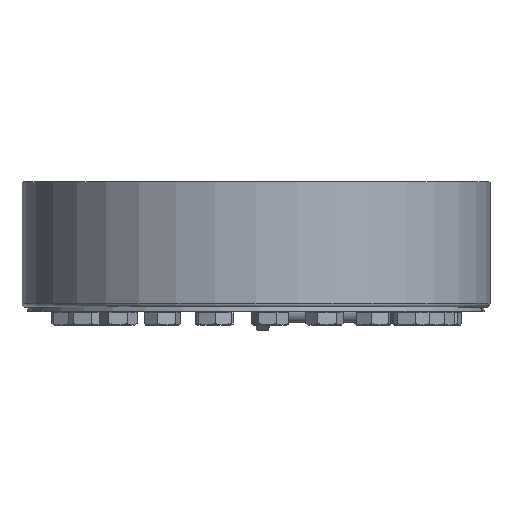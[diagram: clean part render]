
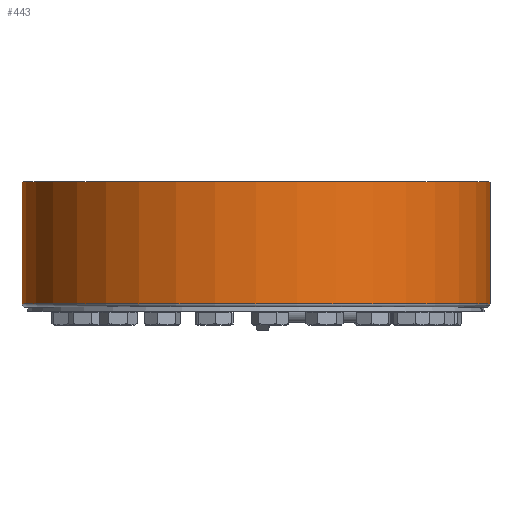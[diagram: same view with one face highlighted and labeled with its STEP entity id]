
A CAD part, top view. The second image highlights one B-rep face of the part: STEP entity #443.
In plain terms, the highlighted cylindrical face has radius 215 mm (diameter 430 mm), a full revolution.
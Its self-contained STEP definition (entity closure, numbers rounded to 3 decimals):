
#443 = ADVANCED_FACE( '', ( #696, #697 ), #698, .T. );
#696 = FACE_OUTER_BOUND( '', #907, .T. );
#697 = FACE_OUTER_BOUND( '', #908, .T. );
#698 = CYLINDRICAL_SURFACE( '', #909, 215. );
#907 = EDGE_LOOP( '', ( #1152 ) );
#908 = EDGE_LOOP( '', ( #1153 ) );
#909 = AXIS2_PLACEMENT_3D( '', #1154, #1155, #1156 );
#1152 = ORIENTED_EDGE( '', *, *, #1592, .T. );
#1153 = ORIENTED_EDGE( '', *, *, #1593, .T. );
#1154 = CARTESIAN_POINT( '', ( 0., -60., 0. ) );
#1155 = DIRECTION( '', ( 0., 1., 0. ) );
#1156 = DIRECTION( '', ( 0., 0., -1. ) );
#1592 = EDGE_CURVE( '', #1764, #1764, #1765, .F. );
#1593 = EDGE_CURVE( '', #1766, #1766, #1767, .T. );
#1764 = VERTEX_POINT( '', #1911 );
#1765 = CIRCLE( '', #1912, 215. );
#1766 = VERTEX_POINT( '', #1913 );
#1767 = CIRCLE( '', #1914, 215. );
#1911 = CARTESIAN_POINT( '', ( 0., 7., -215. ) );
#1912 = AXIS2_PLACEMENT_3D( '', #2113, #2114, #2115 );
#1913 = CARTESIAN_POINT( '', ( 0., 119., -215. ) );
#1914 = AXIS2_PLACEMENT_3D( '', #2116, #2117, #2118 );
#2113 = CARTESIAN_POINT( '', ( 0., 7., 0. ) );
#2114 = DIRECTION( '', ( 0., -1., 0. ) );
#2115 = DIRECTION( '', ( 0., 0., -1. ) );
#2116 = CARTESIAN_POINT( '', ( 0., 119., 0. ) );
#2117 = DIRECTION( '', ( 0., -1., 0. ) );
#2118 = DIRECTION( '', ( 0., 0., -1. ) );
